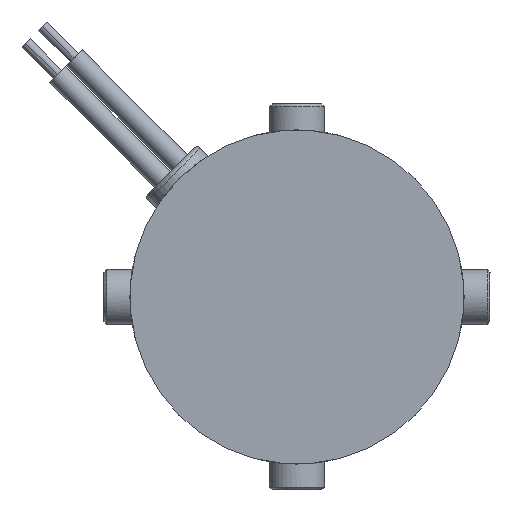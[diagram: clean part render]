
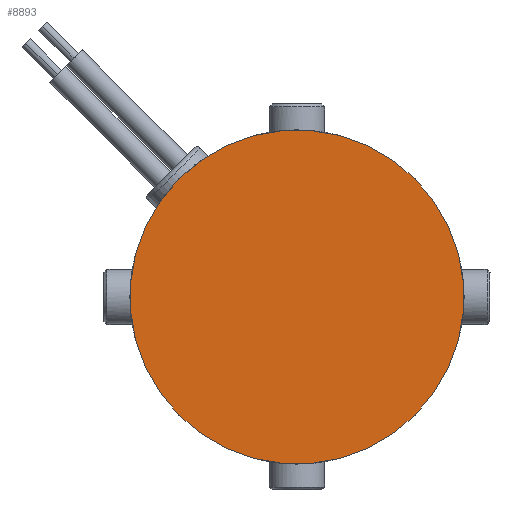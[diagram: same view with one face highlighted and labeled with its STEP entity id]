
A CAD part, left-side view. The second image highlights one B-rep face of the part: STEP entity #8893.
In plain terms, the highlighted planar face has unit normal (-1, 0, 0).
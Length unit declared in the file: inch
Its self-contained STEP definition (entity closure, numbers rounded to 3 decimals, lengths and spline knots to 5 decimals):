
#1194 = EDGE_CURVE ( 'NONE', #2228, #4326, #8231, .T. ) ;
#2043 = EDGE_LOOP ( 'NONE', ( #4589, #8084 ) ) ;
#2228 = VERTEX_POINT ( 'NONE', #7057 ) ;
#2375 = CARTESIAN_POINT ( 'NONE',  ( -3.36811, 2.52546, 4.25863 ) ) ;
#2755 = FACE_OUTER_BOUND ( 'NONE', #2043, .T. ) ;
#3439 = DIRECTION ( 'NONE',  ( 1., 0., 0. ) ) ;
#3642 = DIRECTION ( 'NONE',  ( 1., 0., 0. ) ) ;
#4144 = DIRECTION ( 'NONE',  ( 1., 0., 0. ) ) ;
#4299 = CARTESIAN_POINT ( 'NONE',  ( -3.36811, 2.52546, 4.25863 ) ) ;
#4326 = VERTEX_POINT ( 'NONE', #10738 ) ;
#4589 = ORIENTED_EDGE ( 'NONE', *, *, #4785, .F. ) ;
#4785 = EDGE_CURVE ( 'NONE', #4326, #2228, #4912, .T. ) ;
#4912 = CIRCLE ( 'NONE', #6292, 1.125 ) ;
#5504 = DIRECTION ( 'NONE',  ( 0., -0.707, 0.707 ) ) ;
#6292 = AXIS2_PLACEMENT_3D ( 'NONE', #4299, #3439, #9534 ) ;
#6355 = CARTESIAN_POINT ( 'NONE',  ( -3.36811, 2.52546, 4.25863 ) ) ;
#7057 = CARTESIAN_POINT ( 'NONE',  ( -3.36811, 1.72996, 5.05412 ) ) ;
#7373 = AXIS2_PLACEMENT_3D ( 'NONE', #6355, #3642, #5504 ) ;
#8084 = ORIENTED_EDGE ( 'NONE', *, *, #1194, .F. ) ;
#8231 = CIRCLE ( 'NONE', #7373, 1.125 ) ;
#8321 = AXIS2_PLACEMENT_3D ( 'NONE', #2375, #4144, #9420 ) ;
#8893 = ADVANCED_FACE ( 'NONE', ( #2755 ), #9252, .F. ) ;
#9252 = PLANE ( 'NONE',  #8321 ) ;
#9420 = DIRECTION ( 'NONE',  ( 0., -0.707, 0.707 ) ) ;
#9534 = DIRECTION ( 'NONE',  ( 0., -0.707, 0.707 ) ) ;
#10738 = CARTESIAN_POINT ( 'NONE',  ( -3.36811, 3.32095, 3.46313 ) ) ;
